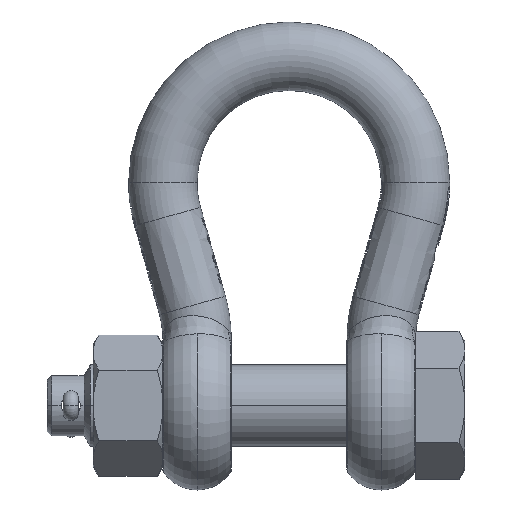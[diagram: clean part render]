
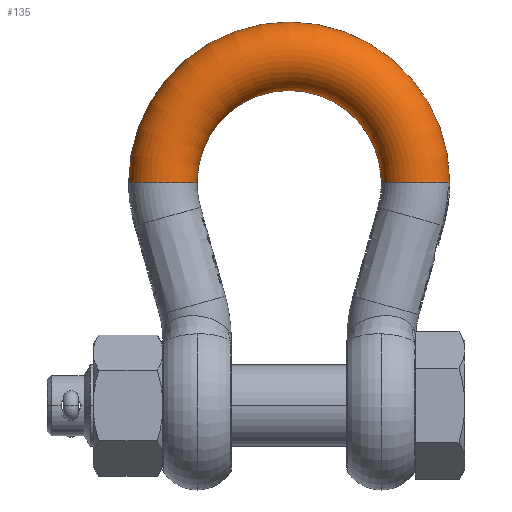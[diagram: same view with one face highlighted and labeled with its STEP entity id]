
A CAD part, top view. The second image highlights one B-rep face of the part: STEP entity #135.
In plain terms, the highlighted toroidal (fillet/blend) face has major radius 29.5 mm and minor radius 8 mm.
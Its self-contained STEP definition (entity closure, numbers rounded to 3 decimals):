
#135=ADVANCED_FACE('',(#771),#772,.T.);
#771=FACE_OUTER_BOUND('',#2531,.T.);
#772=TOROIDAL_SURFACE('',#2532,29.5,8.);
#2531=EDGE_LOOP('',(#9195,#9196,#9197,#9198,#9199));
#2532=AXIS2_PLACEMENT_3D('',#9200,#9201,#9202);
#9195=ORIENTED_EDGE('',*,*,#13389,.T.);
#9196=ORIENTED_EDGE('',*,*,#13466,.F.);
#9197=ORIENTED_EDGE('',*,*,#13392,.T.);
#9198=ORIENTED_EDGE('',*,*,#13467,.T.);
#9199=ORIENTED_EDGE('',*,*,#13468,.F.);
#9200=CARTESIAN_POINT('',(0.,52.1,0.0));
#9201=DIRECTION('',(0.0,0.0,1.0));
#9202=DIRECTION('',(1.0,0.0,0.0));
#13389=EDGE_CURVE('',#15216,#15151,#15229,.T.);
#13392=EDGE_CURVE('',#15154,#15232,#15234,.T.);
#13466=EDGE_CURVE('',#15154,#15151,#15365,.T.);
#13467=EDGE_CURVE('',#15232,#15366,#15367,.T.);
#13468=EDGE_CURVE('',#15216,#15366,#15368,.T.);
#15151=VERTEX_POINT('',#19454);
#15154=VERTEX_POINT('',#19457);
#15216=VERTEX_POINT('',#19637);
#15229=CIRCLE('',#19662,37.5);
#15232=VERTEX_POINT('',#19682);
#15234=CIRCLE('',#19701,21.5);
#15365=CIRCLE('',#20181,8.);
#15366=VERTEX_POINT('',#20182);
#15367=B_SPLINE_CURVE_WITH_KNOTS('',3,(#20183,#20184,#20185,#20186,#20187,#20188,#20189,#20190,#20191,#20192,#20193,#20194,#20195,#20196,#20197,#20198,#20199,#20200),.UNSPECIFIED.,.F.,.F.,(4,2,2,2,2,2,2,2,4),(0.0,0.,0.001,0.001,0.002,0.002,0.003,0.003,0.004),.UNSPECIFIED.);
#15368=CIRCLE('',#20201,8.);
#19454=CARTESIAN_POINT('',(-37.5,52.1,0.));
#19457=CARTESIAN_POINT('',(-21.5,52.1,0.));
#19637=CARTESIAN_POINT('',(37.5,52.1,0.));
#19662=AXIS2_PLACEMENT_3D('',#26447,#26448,#26449);
#19682=CARTESIAN_POINT('',(21.488,52.811,0.));
#19701=AXIS2_PLACEMENT_3D('',#26450,#26451,#26452);
#20181=AXIS2_PLACEMENT_3D('',#26563,#26564,#26565);
#20182=CARTESIAN_POINT('',(21.759,52.1,2.017));
#20183=CARTESIAN_POINT('',(21.488,52.811,-0.027));
#20184=CARTESIAN_POINT('',(21.488,52.81,0.129));
#20185=CARTESIAN_POINT('',(21.492,52.804,0.285));
#20186=CARTESIAN_POINT('',(21.51,52.77,0.593));
#20187=CARTESIAN_POINT('',(21.524,52.743,0.745));
#20188=CARTESIAN_POINT('',(21.56,52.665,1.045));
#20189=CARTESIAN_POINT('',(21.582,52.615,1.193));
#20190=CARTESIAN_POINT('',(21.632,52.491,1.474));
#20191=CARTESIAN_POINT('',(21.66,52.417,1.608));
#20192=CARTESIAN_POINT('',(21.719,52.244,1.864));
#20193=CARTESIAN_POINT('',(21.749,52.145,1.981));
#20194=CARTESIAN_POINT('',(21.803,51.916,2.186));
#20195=CARTESIAN_POINT('',(21.827,51.785,2.271));
#20196=CARTESIAN_POINT('',(21.859,51.502,2.394));
#20197=CARTESIAN_POINT('',(21.868,51.349,2.437));
#20198=CARTESIAN_POINT('',(21.872,51.044,2.49));
#20199=CARTESIAN_POINT('',(21.867,50.889,2.497));
#20200=CARTESIAN_POINT('',(21.858,50.733,2.5));
#20201=AXIS2_PLACEMENT_3D('',#26566,#26567,#26568);
#26447=CARTESIAN_POINT('',(0.,52.1,0.));
#26448=DIRECTION('',(0.0,0.0,1.0));
#26449=DIRECTION('',(1.0,0.0,0.0));
#26450=CARTESIAN_POINT('',(0.,52.1,0.));
#26451=DIRECTION('',(0.0,0.0,-1.0));
#26452=DIRECTION('',(1.0,0.0,0.0));
#26563=CARTESIAN_POINT('',(-29.5,52.1,0.0));
#26564=DIRECTION('',(0.,-1.0,0.0));
#26565=DIRECTION('',(-1.0,0.,0.0));
#26566=CARTESIAN_POINT('',(29.5,52.1,0.0));
#26567=DIRECTION('',(0.,-1.0,0.0));
#26568=DIRECTION('',(1.0,0.,-0.0));
